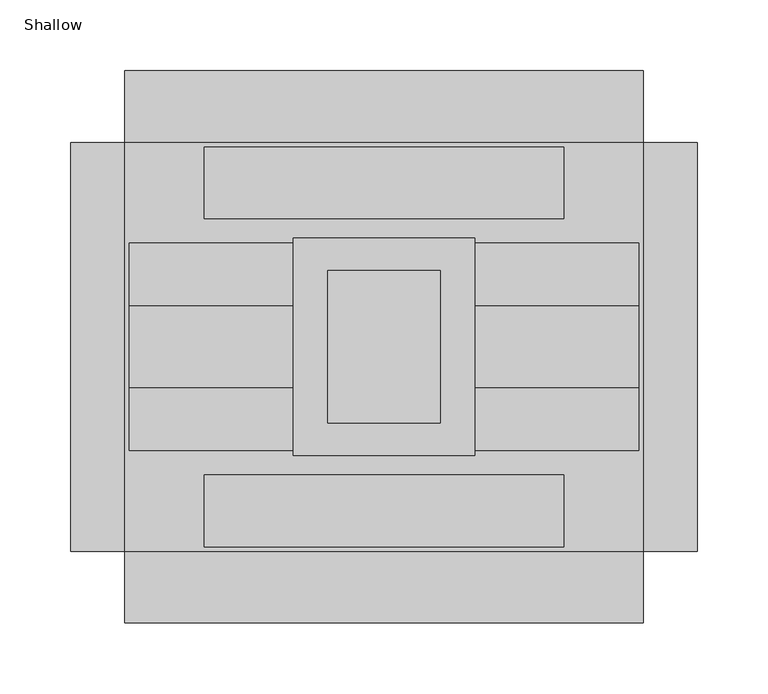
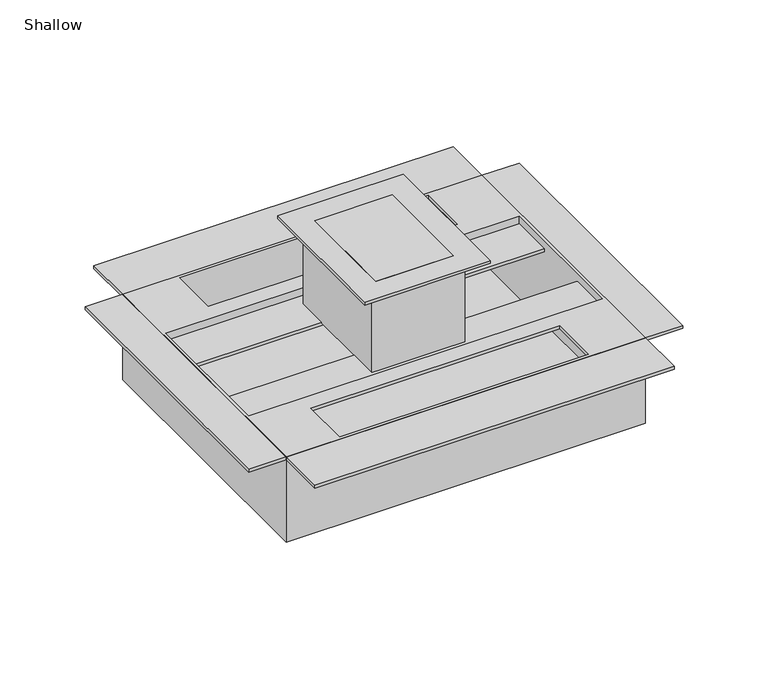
"""IFC4 building model written with IfcOpenShell, lengths in millimetres: proxy geometry, Floor_Box-OmniBox_Series-Wiremold-880_Steel-1_Gang-Fire_Classified : Shallow."""

from ifc_helpers import new_model, si_unit, frame, origin, origin_with_axes, place, context, project, spatial, polyline, circle_curve, outline, extrude, faceted_brep, source, transform, mapped, element, save
from ifc_brep_helpers import plane_surface, cylinder_surface, advanced_brep


def shallow_aca0ecf7(model_context):
    return source(origin(), model_context, "Body", "SolidModel", [
        extrude(outline(polyline([(-39.6875, 53.975), (39.6875, 53.975), (39.6875, -53.975), (-39.6875, -53.975), (-39.6875, 53.975)])), frame((0.0, 0.0, -9.525), z_axis=(0.0, 0.0, 1.0), x_axis=(1.0, 0.0, 0.0)), (0.0, 0.0, 1.0), 12.7),
        extrude(outline(polyline([(64.3001, 77.0001), (64.3001, -77.0001), (-64.3001, -77.0001), (-64.3001, 77.0001), (64.3001, 77.0001)]), holes=[polyline([(39.6875, 53.975), (-39.6875, 53.975), (-39.6875, -53.975), (39.6875, -53.975), (39.6875, 53.975)])]), origin_with_axes(), (0.0, 0.0, 1.0), 3.175),
        faceted_brep([(-180.34, -73.533, -81.026), (180.34, -73.533, -81.026), (180.34, -73.533, -88.9), (-180.34, -73.533, -88.9), (180.34, -29.083, -88.9), (-180.34, -29.083, -88.9), (180.34, -29.083, -92.075), (-180.34, -29.083, -92.075), (180.34, -76.708, -92.075), (-180.34, -76.708, -92.075), (180.34, -76.708, -84.201), (-180.34, -76.708, -84.201), (180.34, -141.478, -84.201), (127.0, -141.478, -84.201), (127.0, -90.678, -84.201), (-127.0, -90.678, -84.201), (-127.0, -141.478, -84.201), (-180.34, -141.478, -84.201), (180.34, 76.708, -84.201), (-180.34, 76.708, -84.201), (-180.34, 141.478, -84.201), (-127.0, 141.478, -84.201), (-127.0, 90.678, -84.201), (127.0, 90.678, -84.201), (127.0, 141.478, -84.201), (180.34, 141.478, -84.201), (180.34, 76.708, -92.075), (-180.34, 76.708, -92.075), (180.34, 29.083, -92.075), (-180.34, 29.083, -92.075), (180.34, 29.083, -88.9), (-180.34, 29.083, -88.9), (180.34, 73.533, -88.9), (-180.34, 73.533, -88.9), (180.34, 73.533, -81.026), (-180.34, 73.533, -81.026), (-183.515, 144.653, -81.026), (-183.515, -144.653, -81.026), (183.515, -144.653, -81.026), (183.515, 144.653, -81.026), (-127.0, 141.478, -81.026), (127.0, 141.478, -81.026), (127.0, 90.678, -81.026), (-127.0, 90.678, -81.026), (127.0, -141.478, -81.026), (-127.0, -141.478, -81.026), (-127.0, -90.678, -81.026), (127.0, -90.678, -81.026), (-183.515, 144.653, -172.974), (183.515, 144.653, -172.974), (183.515, -144.653, -172.974), (-183.515, -144.653, -172.974), (-180.34, 141.478, -169.799), (-180.34, -141.478, -169.799), (180.34, -141.478, -169.799), (180.34, 141.478, -169.799)], [[[0, 1, 2, 3]], [[3, 2, 4, 5]], [[5, 4, 6, 7]], [[7, 6, 8, 9]], [[9, 8, 10, 11]], [[11, 10, 12, 13, 14, 15, 16, 17]], [[18, 19, 20, 21, 22, 23, 24, 25]], [[19, 18, 26, 27]], [[27, 26, 28, 29]], [[29, 28, 30, 31]], [[31, 30, 32, 33]], [[33, 32, 34, 35]], [[36, 37, 38, 39], [0, 35, 34, 1], [40, 41, 42, 43], [44, 45, 46, 47]], [[48, 49, 50, 51]], [[37, 36, 48, 51]], [[38, 37, 51, 50]], [[39, 38, 50, 49]], [[36, 39, 49, 48]], [[52, 53, 54, 55]], [[53, 52, 20, 19, 27, 29, 31, 33, 35, 0, 3, 5, 7, 9, 11, 17]], [[54, 53, 17, 16, 45, 44, 13, 12]], [[55, 54, 12, 10, 8, 6, 4, 2, 1, 34, 32, 30, 28, 26, 18, 25]], [[52, 55, 25, 24, 41, 40, 21, 20]], [[22, 43, 42, 23]], [[23, 42, 41, 24]], [[43, 22, 21, 40]], [[15, 46, 45, 16]], [[47, 14, 13, 44]], [[46, 15, 14, 47]]]),
        extrude(outline(polyline([(-183.515, 195.453), (183.515, 195.453), (183.515, 144.653), (-183.515, 144.653), (-183.515, 195.453)])), frame((0.0, 0.0, -84.201), z_axis=(0.0, 0.0, 1.0), x_axis=(1.0, 0.0, 0.0)), (0.0, 0.0, 1.0), 3.175),
        extrude(outline(polyline([(-183.515, -144.653), (183.515, -144.653), (183.515, -195.453), (-183.515, -195.453), (-183.515, -144.653)])), frame((0.0, 0.0, -84.201), z_axis=(0.0, 0.0, 1.0), x_axis=(1.0, 0.0, 0.0)), (0.0, 0.0, 1.0), 3.175),
        extrude(outline(polyline([(-221.615, 144.653), (-183.515, 144.653), (-183.515, -144.653), (-221.615, -144.653), (-221.615, 144.653)])), frame((0.0, 0.0, -84.201), z_axis=(0.0, 0.0, 1.0), x_axis=(1.0, 0.0, 0.0)), (0.0, 0.0, 1.0), 3.175),
        extrude(outline(polyline([(183.515, 144.653), (221.615, 144.653), (221.615, -144.653), (183.515, -144.653), (183.515, 144.653)])), frame((0.0, 0.0, -84.201), z_axis=(0.0, 0.0, 1.0), x_axis=(1.0, 0.0, 0.0)), (0.0, 0.0, 1.0), 3.175),
        advanced_brep(
        [(44.45, 0.0, -228.6), (-44.45, 0.0, -228.6), (0.0, 0.0, -228.6), (44.45, 0.0, -172.974), (-44.45, 0.0, -172.974), (0.0, 0.0, -172.974)],
        [
            (0, 1, circle_curve(frame((0.0, 0.0, -228.6), z_axis=(0.0, 0.0, -1.0), x_axis=(-1.0, 0.0, 0.0)), 44.45)),
            (1, 2),
            (2, 0),
            (1, 0, circle_curve(frame((0.0, 0.0, -228.6), z_axis=(0.0, 0.0, -1.0), x_axis=(-1.0, 0.0, 0.0)), 44.45)),
            (3, 4, circle_curve(frame((0.0, 0.0, -172.974), z_axis=(0.0, 0.0, -1.0), x_axis=(-1.0, 0.0, 0.0)), 44.45)),
            (4, 1),
            (0, 3),
            (4, 3, circle_curve(frame((0.0, 0.0, -172.974), z_axis=(0.0, 0.0, -1.0), x_axis=(-1.0, 0.0, 0.0)), 44.45)),
            (5, 4),
            (3, 5),
        ],
        [
            plane_surface(frame((0.0, 0.0, -228.6), z_axis=(0.0, 0.0, -1.0), x_axis=(-1.0, 0.0, 0.0))),
            cylinder_surface(frame((0.0, 0.0, 222.1738), z_axis=(0.0, 0.0, 1.0), x_axis=(-1.0, 0.0, 0.0)), 44.45),
            plane_surface(frame((0.0, 0.0, -172.974), z_axis=(0.0, 0.0, 1.0), x_axis=(-1.0, 0.0, 0.0))),
        ],
        [
            (0, [[1, 2, 3]]),
            (0, [[4, -3, -2]]),
            (1, [[5, 6, -1, 7]]),
            (1, [[8, -7, -4, -6]]),
            (2, [[9, -5, 10]]),
            (2, [[-10, -8, -9]]),
        ],
    ),
        extrude(outline(polyline([(-47.244, 60.579), (47.244, 60.579), (47.244, -60.579), (-47.244, -60.579), (-47.244, 60.579)])), frame((0.0, 0.0, -88.9), z_axis=(0.0, 0.0, 1.0), x_axis=(1.0, 0.0, 0.0)), (0.0, 0.0, 1.0), 88.9),
    ])


if __name__ == "__main__":
    model = new_model("IFC4")
    model_context = context("Model", 3, world=origin())
    ifc_project = project(units=[si_unit("LENGTHUNIT", "METRE", prefix="MILLI")], contexts=[model_context])
    site = spatial("IfcSite", under=ifc_project)
    building = spatial("IfcBuilding", under=site)
    placement = place(None, origin())
    shallow_shape = shallow_aca0ecf7(model_context)
    element("IfcBuildingElementProxy", 1, Name="Floor_Box-OmniBox_Series-Wiremold-880_Steel-1_Gang-Fire_Classified : Shallow", ObjectType="Floor_Box-OmniBox_Series-Wiremold-880_Steel-1_Gang-Fire_Classified : Shallow", at=placement, inside=building, context=model_context, shape_type="MappedRepresentation", body=[
        mapped(shallow_shape, transform((0.0, 0.0, 0.0), x_axis=(1.0, 0.0, 0.0), y_axis=(0.0, 1.0, 0.0), z_axis=(0.0, 0.0, 1.0))),
    ])
    save(model, "model.ifc")
